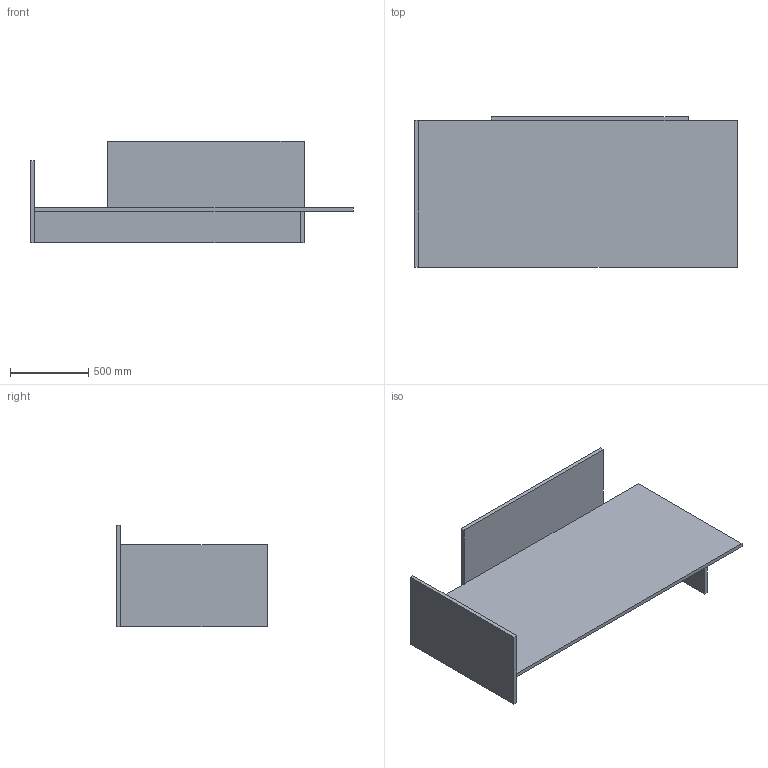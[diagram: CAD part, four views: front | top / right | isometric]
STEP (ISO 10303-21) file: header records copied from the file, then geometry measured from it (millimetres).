
FILE_DESCRIPTION(/* description */ (''),/* implementation_level */ '2;1');
FILE_NAME(/* name */ 'KSI4TC~H',/* time_stamp */ '2020-03-27T14:58:19+01:00',/* author */ (''),/* organization */ (''),/* preprocessor_version */ 'ST-DEVELOPER v16.5',/* originating_system */ '',/* authorisation */ '');
FILE_SCHEMA (('AUTOMOTIVE_DESIGN'));
Length unit declared in the file: millimetre
Products named in the file (1): Document
Bounding box: 2065 x 965 x 650 mm (x, y, z)
Volume: 103902500 mm3; surface area: 8901450 mm2
Topology: 7 solids, 7 shells, 42 faces, 84 edges, 56 vertices
Faces by surface type: plane 42
Entity records: 1012 total; most frequent: CARTESIAN_POINT 268, ORIENTED_EDGE 168, EDGE_CURVE 84, B_SPLINE_CURVE_WITH_KNOTS 84, VERTEX_POINT 56, DIRECTION 46, AXIS2_PLACEMENT_3D 44, ADVANCED_FACE 42
